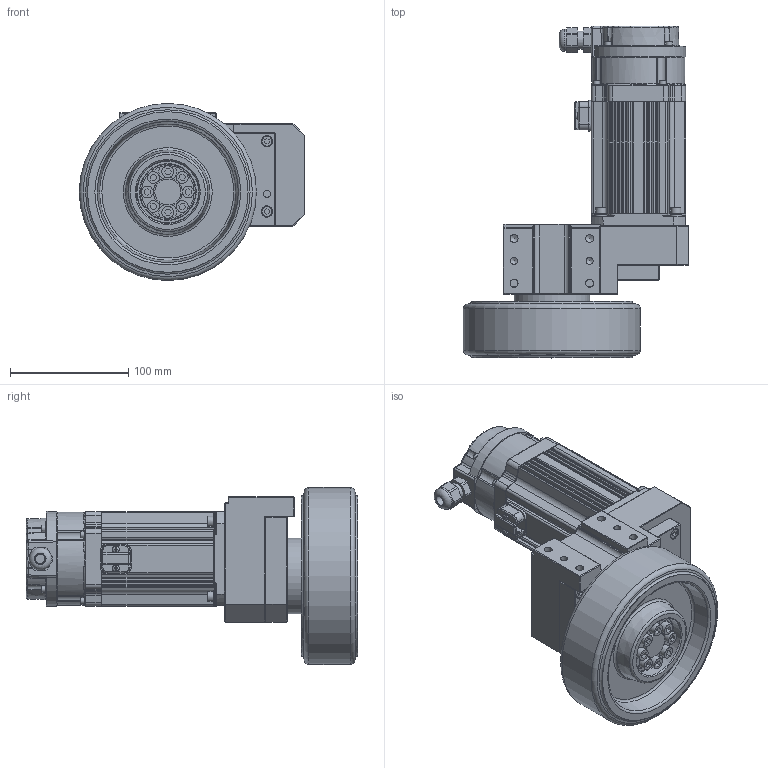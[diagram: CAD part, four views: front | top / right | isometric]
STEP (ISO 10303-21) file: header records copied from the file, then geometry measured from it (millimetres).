
FILE_DESCRIPTION(('STEP AP203'),'1');
FILE_NAME('SWR020B-T15.stp','2021-04-08T04:08:21',(' '),(' '),'Spatial InterOp 3D',' ',' ');
FILE_SCHEMA(('CONFIG_CONTROL_DESIGN'));
Length unit declared in the file: millimetre
Products named in the file (1): SWR020B-T15
Bounding box: 191 x 281 x 150 mm (x, y, z)
Volume: 2192686.8 mm3; surface area: 227481.8 mm2
Topology: 1 solids, 40 shells, 2353 faces, 5553 edges, 3320 vertices
Faces by surface type: plane 1183, cone 479, cylinder 467, torus 155, bspline 51, sphere 11, revolution 7
Full cylindrical faces by diameter (mm): 2.5 x4, 3 x10, 3.3 x5, 3.5 x8, 4 x4, 4.2 x10, 5 x18, 5.3 x4, 5.5 x14, 5.6 x2, 6 x12, 6.6 x6, 6.75 x6, 7 x4, 8 x1, 8.5 x11, 9 x1, 9.5 x6, 10 x12, 15.2 x1, 19 x1, 22 x1, 24.5 x2, 25 x1, 44.5 x2, 47 x1, 53 x1, 64 x1, 120 x1, 136 x2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
Entity records: 69367 total; most frequent: CARTESIAN_POINT 17203, DIRECTION 11226, ORIENTED_EDGE 10202, EDGE_CURVE 5101, AXIS2_PLACEMENT_3D 4242, VERTEX_POINT 3171, EDGE_LOOP 2760, LINE 2735
